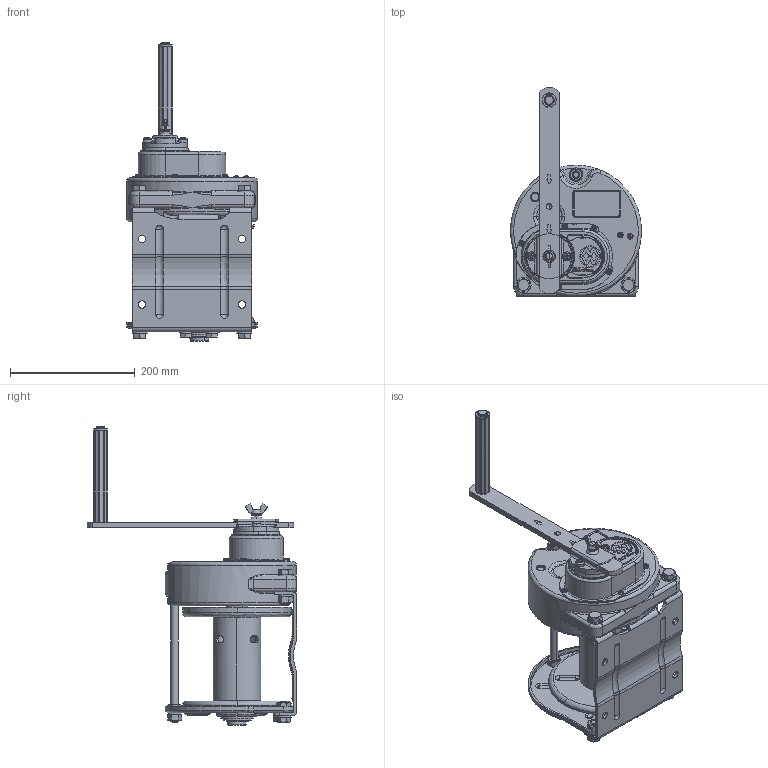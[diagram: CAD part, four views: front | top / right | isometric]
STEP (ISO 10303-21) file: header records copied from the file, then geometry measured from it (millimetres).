
FILE_DESCRIPTION( (''), '2;1');
FILE_NAME ('GM-5-SIC.stp','2023-12-21T17:04:21',(''),(''),'spGate 19.8.2 (****-****-****-****)','','');
FILE_SCHEMA (('AUTOMOTIVE_DESIGN'));
Length unit declared in the file: millimetre
Products named in the file (3): Assembly; GM-5-SIC-prt0; GM-5-SIC-prt1
Assembly tree (2 placements, depth 2):
  Assembly
    GM-5-SIC-prt0
    GM-5-SIC-prt1
Bounding box: 209.96 x 335.43 x 478.1 mm (x, y, z)
Volume: 3873945.6 mm3; surface area: 660355.6 mm2
Topology: 2 solids, 2 shells, 2685 faces, 6949 edges, 4353 vertices
Faces by surface type: plane 1269, cylinder 884, bspline 470, sphere 62
Entity records: 148015 total; most frequent: CARTESIAN_POINT 29080, ORIENTED_EDGE 13802, DIRECTION 13163, COLOUR_RGB 9588, PRESENTATION_STYLE_ASSIGNMENT 9588, STYLED_ITEM 9588, EDGE_CURVE 6901, DRAUGHTING_PRE_DEFINED_CURVE_FONT 6901
